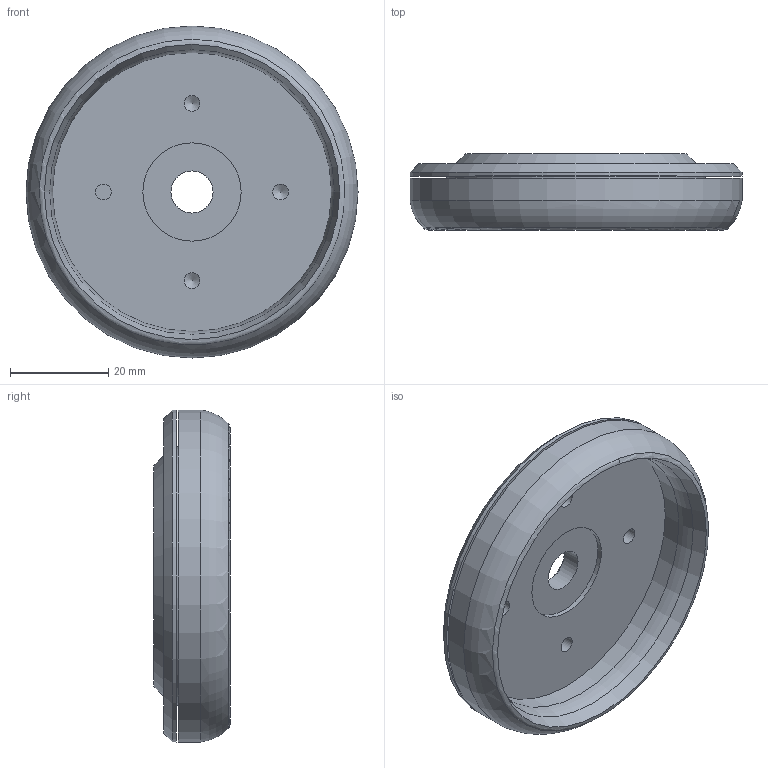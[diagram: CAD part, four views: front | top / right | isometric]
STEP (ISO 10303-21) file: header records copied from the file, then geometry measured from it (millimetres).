
FILE_DESCRIPTION (( 'STEP AP214' ), '1' );
FILE_NAME ('10FF.070.001.15.STEP', '2026-03-20T13:52:56', ( '' ), ( '' ), 'SwSTEP 2.0', 'SolidWorks 2025', '' );
FILE_SCHEMA (( 'AUTOMOTIVE_DESIGN' ));
Length unit declared in the file: millimetre
Products named in the file (1): 10FF.070.001.15
Bounding box: 67.5 x 15.5 x 67.5 mm (x, y, z)
Volume: 22452.2 mm3; surface area: 14031.2 mm2
Topology: 1 solids, 1 shells, 27 faces, 54 edges, 34 vertices
Faces by surface type: cylinder 10, plane 7, cone 7, torus 3
Full cylindrical faces by diameter (mm): 3.242 x4, 8.566 x1, 20 x1, 52.5 x1, 56.715 x1, 67.5 x2
Entity records: 571 total; most frequent: DIRECTION 110, CARTESIAN_POINT 82, AXIS2_PLACEMENT_3D 55, EDGE_LOOP 54, ORIENTED_EDGE 54, FACE_OUTER_BOUND 40, ADVANCED_FACE 27, VERTEX_POINT 27
